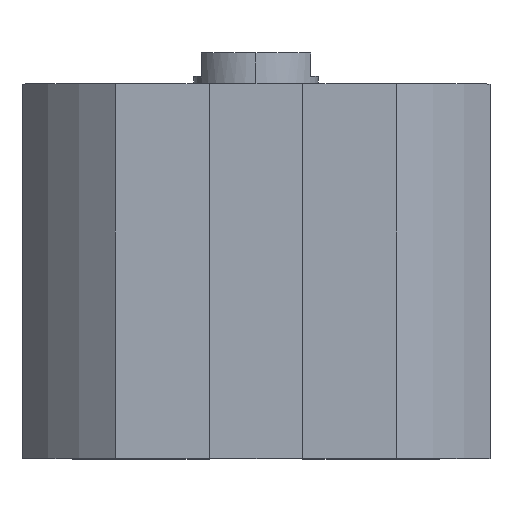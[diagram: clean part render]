
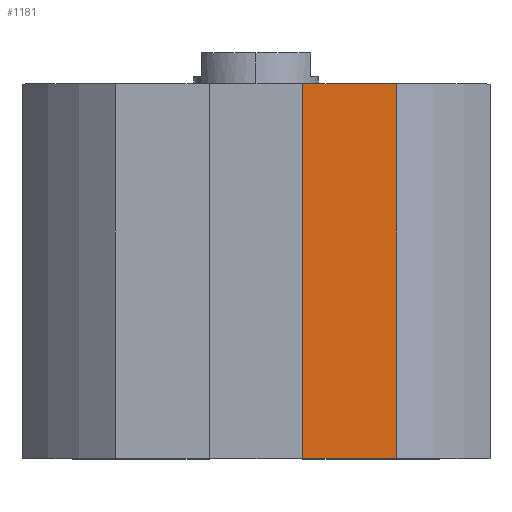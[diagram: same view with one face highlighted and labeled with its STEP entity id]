
A CAD part, top view. The second image highlights one B-rep face of the part: STEP entity #1181.
In plain terms, the highlighted planar face has unit normal (0, 0, 1).
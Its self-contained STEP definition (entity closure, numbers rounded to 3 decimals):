
#38 = DIRECTION ( 'NONE',  ( 1., 0., 0. ) ) ;
#125 = CARTESIAN_POINT ( 'NONE',  ( 18.028, -48., 30. ) ) ;
#156 = CARTESIAN_POINT ( 'NONE',  ( 18.028, 0., 30. ) ) ;
#177 = LINE ( 'NONE', #3216, #266 ) ;
#266 = VECTOR ( 'NONE', #38, 1000. ) ;
#427 = CARTESIAN_POINT ( 'NONE',  ( 6., -48., 30. ) ) ;
#510 = FACE_OUTER_BOUND ( 'NONE', #1390, .T. ) ;
#739 = AXIS2_PLACEMENT_3D ( 'NONE', #2570, #1739, #978 ) ;
#792 = CARTESIAN_POINT ( 'NONE',  ( 6., -48., 30. ) ) ;
#978 = DIRECTION ( 'NONE',  ( 1., 0., 0. ) ) ;
#1013 = VERTEX_POINT ( 'NONE', #156 ) ;
#1047 = LINE ( 'NONE', #1528, #1619 ) ;
#1083 = EDGE_CURVE ( 'NONE', #2420, #1013, #177, .T. ) ;
#1085 = VECTOR ( 'NONE', #2660, 1000. ) ;
#1109 = ORIENTED_EDGE ( 'NONE', *, *, #2755, .F. ) ;
#1181 = ADVANCED_FACE ( 'NONE', ( #510 ), #1457, .T. ) ;
#1199 = DIRECTION ( 'NONE',  ( 0., 1., 0. ) ) ;
#1215 = VERTEX_POINT ( 'NONE', #427 ) ;
#1345 = VERTEX_POINT ( 'NONE', #3472 ) ;
#1390 = EDGE_LOOP ( 'NONE', ( #1914, #1109, #2552, #3198 ) ) ;
#1457 = PLANE ( 'NONE',  #739 ) ;
#1528 = CARTESIAN_POINT ( 'NONE',  ( 0., -48., 30. ) ) ;
#1614 = EDGE_CURVE ( 'NONE', #1345, #1013, #2784, .T. ) ;
#1619 = VECTOR ( 'NONE', #3091, 1000. ) ;
#1739 = DIRECTION ( 'NONE',  ( 0., 0., 1. ) ) ;
#1914 = ORIENTED_EDGE ( 'NONE', *, *, #1083, .F. ) ;
#2008 = EDGE_CURVE ( 'NONE', #1215, #1345, #1047, .T. ) ;
#2243 = VECTOR ( 'NONE', #1199, 1000. ) ;
#2420 = VERTEX_POINT ( 'NONE', #2832 ) ;
#2455 = LINE ( 'NONE', #792, #1085 ) ;
#2552 = ORIENTED_EDGE ( 'NONE', *, *, #2008, .T. ) ;
#2570 = CARTESIAN_POINT ( 'NONE',  ( 0., -48., 30. ) ) ;
#2660 = DIRECTION ( 'NONE',  ( 0., 1., 0. ) ) ;
#2755 = EDGE_CURVE ( 'NONE', #1215, #2420, #2455, .T. ) ;
#2784 = LINE ( 'NONE', #125, #2243 ) ;
#2832 = CARTESIAN_POINT ( 'NONE',  ( 6., 0., 30. ) ) ;
#3091 = DIRECTION ( 'NONE',  ( 1., 0., 0. ) ) ;
#3198 = ORIENTED_EDGE ( 'NONE', *, *, #1614, .T. ) ;
#3216 = CARTESIAN_POINT ( 'NONE',  ( 0., 0., 30. ) ) ;
#3472 = CARTESIAN_POINT ( 'NONE',  ( 18.028, -48., 30. ) ) ;
